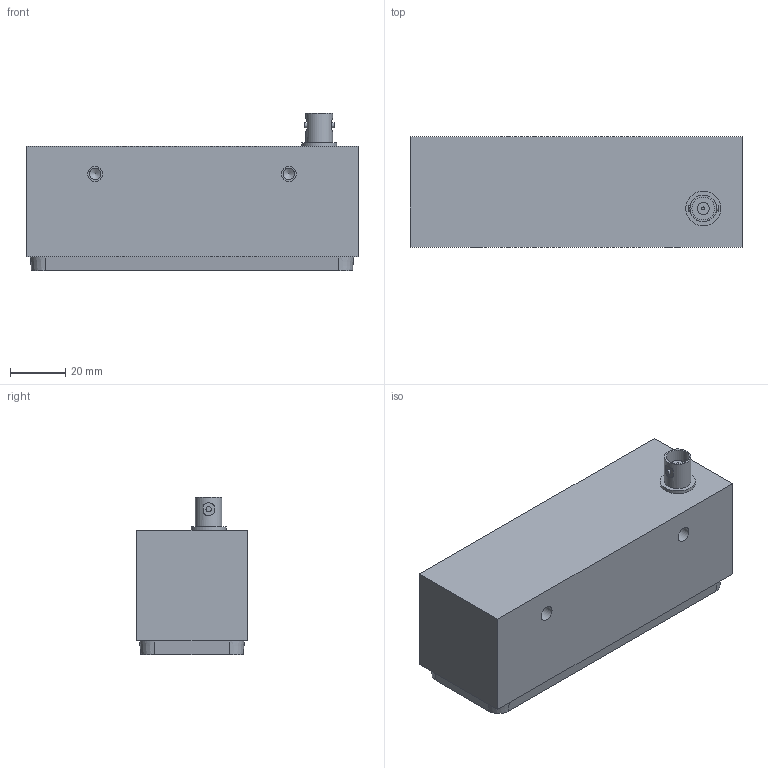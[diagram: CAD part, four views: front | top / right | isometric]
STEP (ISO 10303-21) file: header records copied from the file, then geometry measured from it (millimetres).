
FILE_DESCRIPTION(/* description */ (''),/* implementation_level */ '2;1');
FILE_NAME(/* name */ 'F:\daten\PRODUKTE\TELEMETR\A\Mechanik\CAD\8D\kunde\Antenne_8D_kunde.stp',/* time_stamp */ '2019-09-04T12:44:15+02:00',/* author */ ('dschaefer'),/* organization */ (''),/* preprocessor_version */ 'ST-DEVELOPER v16.5',/* originating_system */ 'Autodesk Inventor 2017',/* authorisation */ '');
FILE_SCHEMA (('AUTOMOTIVE_DESIGN { 1 0 10303 214 3 1 1 }'));
Length unit declared in the file: millimetre
Products named in the file (1): Antenne_8D_kunde
Bounding box: 120 x 40 x 56.95 mm (x, y, z)
Volume: 213539.7 mm3; surface area: 25151.5 mm2
Topology: 1 solids, 4 shells, 81 faces, 187 edges, 124 vertices
Faces by surface type: plane 35, cylinder 21, cone 21, torus 4
Full cylindrical faces by diameter (mm): 0.686 x1, 1.067 x1, 1.88 x2, 2.108 x1, 2.224 x1, 2.5 x1, 2.9 x1, 4.134 x2, 4.318 x1, 4.7 x1, 5.5 x2, 8.255 x1, 9.614 x1, 12.636 x1
Entity records: 2314 total; most frequent: CARTESIAN_POINT 484, DIRECTION 366, ORIENTED_EDGE 298, AXIS2_PLACEMENT_3D 155, EDGE_CURVE 149, EDGE_LOOP 120, VERTEX_POINT 113, STYLED_ITEM 82
